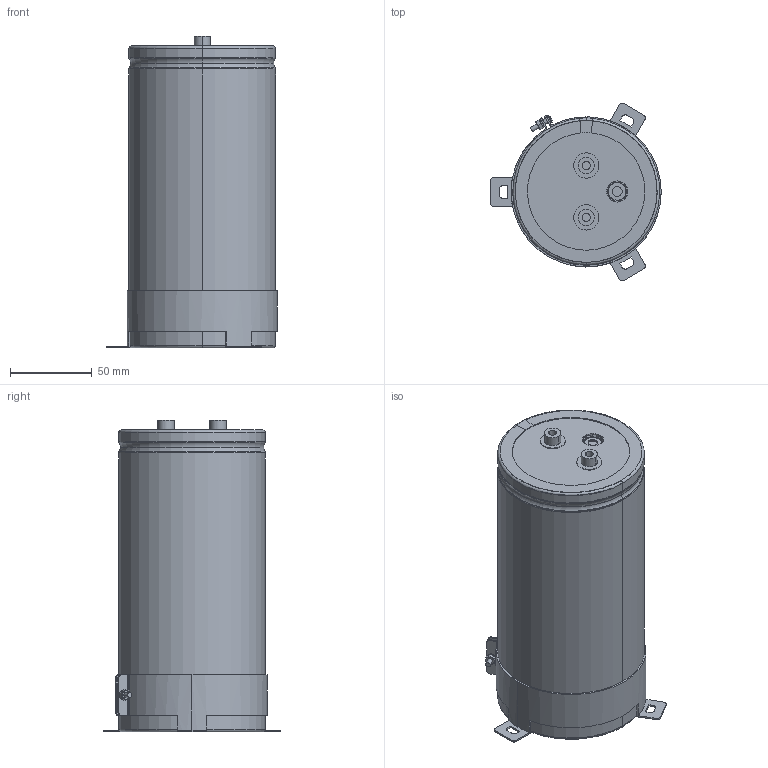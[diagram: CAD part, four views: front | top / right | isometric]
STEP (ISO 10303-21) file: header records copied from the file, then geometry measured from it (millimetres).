
FILE_DESCRIPTION(('STEP AP214'),'1');
FILE_NAME('90x185_Screw.stp','2022-03-14T08:52:53',(' '),(' '),'Spatial InterOp 3D',' ',' ');
FILE_SCHEMA(('AUTOMOTIVE_DESIGN { 1 0 10303 214 1 1 1 1 }'));
Length unit declared in the file: metre
Products named in the file (10): 90x185_Screw; Component1; Component2; Component3; Component4; Component5; Component6; Component7; Component8; Component9
Assembly tree (9 placements, depth 2):
  90x185_Screw
    Component1
    Component2
    Component3
    Component4
    Component5
    Component6
    Component7
    Component8
    Component9
Bounding box: 104.5 x 108.86 x 191 mm (x, y, z)
Volume: 1179479.5 mm3; surface area: 196215.6 mm2
Topology: 9 solids, 9 shells, 352 faces, 873 edges, 551 vertices
Faces by surface type: plane 112, cylinder 110, torus 90, cone 38, sphere 2
Entity records: 11474 total; most frequent: DIRECTION 2126, CARTESIAN_POINT 1918, ORIENTED_EDGE 1746, AXIS2_PLACEMENT_3D 919, EDGE_CURVE 873, VERTEX_POINT 551, CIRCLE 511, EDGE_LOOP 380
